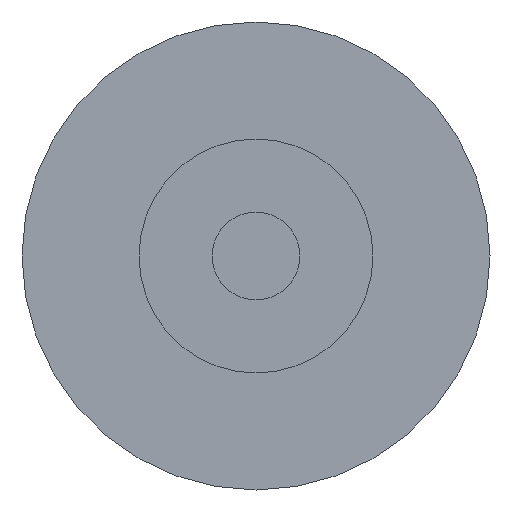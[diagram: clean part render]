
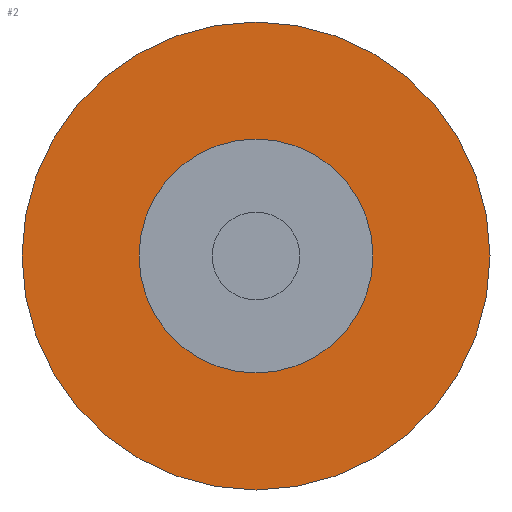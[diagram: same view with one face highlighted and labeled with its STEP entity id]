
A CAD part, front view. The second image highlights one B-rep face of the part: STEP entity #2.
In plain terms, the highlighted planar face has unit normal (0, -1, 0).
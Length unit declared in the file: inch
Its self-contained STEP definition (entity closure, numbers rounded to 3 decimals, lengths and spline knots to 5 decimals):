
#2 = ADVANCED_FACE ( 'NONE', ( #137, #130 ), #226, .F. ) ;
#37 = EDGE_CURVE ( 'NONE', #240, #236, #417, .T. ) ;
#50 = EDGE_CURVE ( 'NONE', #236, #240, #435, .T. ) ;
#52 = EDGE_CURVE ( 'NONE', #221, #208, #428, .T. ) ;
#57 = EDGE_CURVE ( 'NONE', #208, #221, #433, .T. ) ;
#58 = AXIS2_PLACEMENT_3D ( 'NONE', #227, #232, #216 ) ;
#77 = AXIS2_PLACEMENT_3D ( 'NONE', #351, #343, #352 ) ;
#101 = EDGE_LOOP ( 'NONE', ( #178, #106 ) ) ;
#106 = ORIENTED_EDGE ( 'NONE', *, *, #50, .F. ) ;
#119 = EDGE_LOOP ( 'NONE', ( #199, #176 ) ) ;
#130 = FACE_BOUND ( 'NONE', #101, .T. ) ;
#137 = FACE_OUTER_BOUND ( 'NONE', #119, .T. ) ;
#176 = ORIENTED_EDGE ( 'NONE', *, *, #57, .F. ) ;
#178 = ORIENTED_EDGE ( 'NONE', *, *, #37, .F. ) ;
#199 = ORIENTED_EDGE ( 'NONE', *, *, #52, .F. ) ;
#208 = VERTEX_POINT ( 'NONE', #366 ) ;
#216 = DIRECTION ( 'NONE',  ( 0., 0., 1. ) ) ;
#221 = VERTEX_POINT ( 'NONE', #375 ) ;
#226 = PLANE ( 'NONE',  #58 ) ;
#227 = CARTESIAN_POINT ( 'NONE',  ( -1.10557, -0.44, 0. ) ) ;
#232 = DIRECTION ( 'NONE',  ( 0., 1., 0. ) ) ;
#236 = VERTEX_POINT ( 'NONE', #384 ) ;
#240 = VERTEX_POINT ( 'NONE', #374 ) ;
#326 = DIRECTION ( 'NONE',  ( 0., 0., 1. ) ) ;
#329 = CARTESIAN_POINT ( 'NONE',  ( 0., -0.44, 0. ) ) ;
#332 = DIRECTION ( 'NONE',  ( 0., -1., 0. ) ) ;
#333 = CARTESIAN_POINT ( 'NONE',  ( 0., -0.44, 0. ) ) ;
#335 = DIRECTION ( 'NONE',  ( 0., 0., 1. ) ) ;
#343 = DIRECTION ( 'NONE',  ( 0., -1., 0. ) ) ;
#349 = DIRECTION ( 'NONE',  ( 0., 1., 0. ) ) ;
#351 = CARTESIAN_POINT ( 'NONE',  ( 0., -0.44, 0. ) ) ;
#352 = DIRECTION ( 'NONE',  ( 0., 0., 1. ) ) ;
#354 = CARTESIAN_POINT ( 'NONE',  ( 0., -0.44, 0. ) ) ;
#361 = DIRECTION ( 'NONE',  ( 0., 0., 1. ) ) ;
#362 = DIRECTION ( 'NONE',  ( 0., 1., 0. ) ) ;
#366 = CARTESIAN_POINT ( 'NONE',  ( 0., -0.44, 0.5 ) ) ;
#374 = CARTESIAN_POINT ( 'NONE',  ( 0., -0.44, -0.25 ) ) ;
#375 = CARTESIAN_POINT ( 'NONE',  ( 0., -0.44, -0.5 ) ) ;
#384 = CARTESIAN_POINT ( 'NONE',  ( 0., -0.44, 0.25 ) ) ;
#417 = CIRCLE ( 'NONE', #77, 0.25 ) ;
#428 = CIRCLE ( 'NONE', #441, 0.5 ) ;
#433 = CIRCLE ( 'NONE', #440, 0.5 ) ;
#435 = CIRCLE ( 'NONE', #447, 0.25 ) ;
#440 = AXIS2_PLACEMENT_3D ( 'NONE', #354, #362, #335 ) ;
#441 = AXIS2_PLACEMENT_3D ( 'NONE', #333, #349, #361 ) ;
#447 = AXIS2_PLACEMENT_3D ( 'NONE', #329, #332, #326 ) ;
